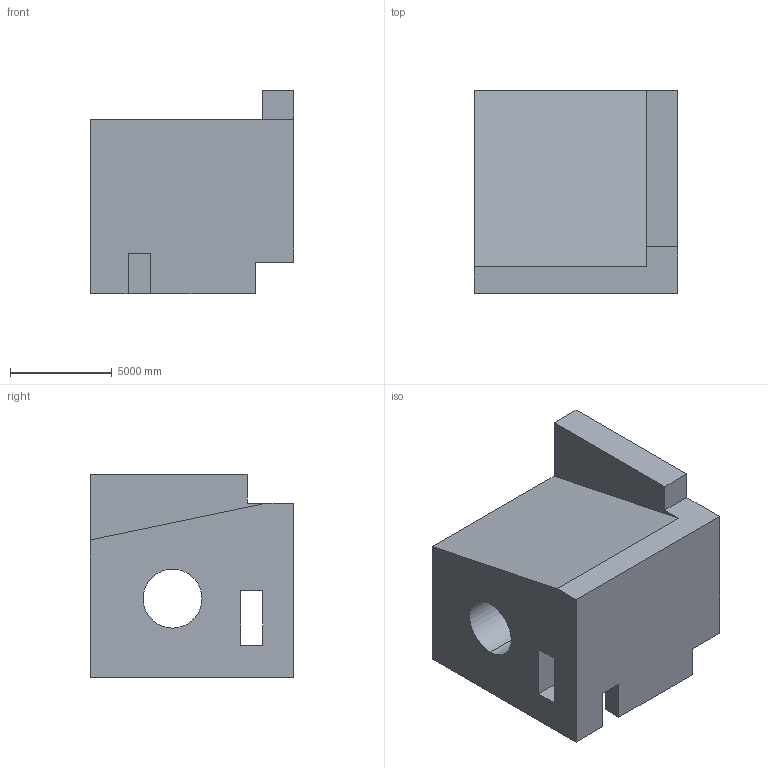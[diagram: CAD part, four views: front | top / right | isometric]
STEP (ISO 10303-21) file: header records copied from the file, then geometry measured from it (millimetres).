
FILE_DESCRIPTION (( 'STEP AP203' ), '1' );
FILE_NAME ('601.STEP', '2022-08-04T14:33:04', ( 'user' ), ( '' ), 'SwSTEP 2.0', 'SolidWorks 2021', '' );
FILE_SCHEMA (( 'CONFIG_CONTROL_DESIGN' ));
Length unit declared in the file: centimetre
Products named in the file (1): 601
Bounding box: 10000 x 10000 x 10000 mm (x, y, z)
Volume: 651808547200 mm3; surface area: 734891268.2 mm2
Topology: 1 solids, 1 shells, 35 faces, 102 edges, 68 vertices
Faces by surface type: plane 29, cylinder 6
Entity records: 1249 total; most frequent: CARTESIAN_POINT 206, ORIENTED_EDGE 204, DIRECTION 198, EDGE_CURVE 102, VECTOR 78, LINE 78, VERTEX_POINT 68, AXIS2_PLACEMENT_3D 60
